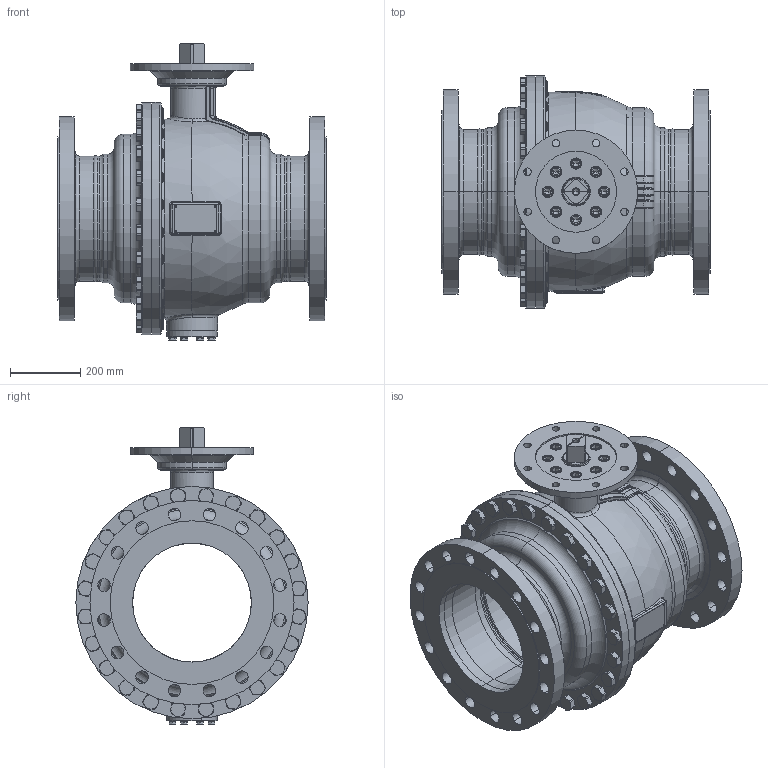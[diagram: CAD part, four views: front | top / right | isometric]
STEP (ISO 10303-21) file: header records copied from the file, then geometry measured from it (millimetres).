
FILE_DESCRIPTION((''),'2;1');
FILE_NAME('KHI-F_350_PN040-F30-4_SW0001','2026-02-05T15:39:41',('fischerkl'),('KLINGER'),'CREO PARAMETRIC BY PTC INC, 2023014','CREO PARAMETRIC BY PTC INC, 2023014','');
FILE_SCHEMA(('CONFIG_CONTROL_DESIGN'));
Products named in the file (1): KHI-F_350_PN040-F30-4_SW0001
Bounding box: 762 x 660 x 842.8 mm (x, y, z)
Volume: 50965353.5 mm3; surface area: 6374092.1 mm2
Topology: 1 solids, 4 shells, 3389 faces, 8552 edges, 5337 vertices
Faces by surface type: plane 1732, cylinder 789, cone 448, torus 291, bspline 99, sphere 30
Entity records: 143336 total; most frequent: CARTESIAN_POINT 62558, ORIENTED_EDGE 17052, DIRECTION 16733, EDGE_CURVE 8526, AXIS2_PLACEMENT_3D 6378, VERTEX_POINT 5337, VECTOR 3977, LINE 3977
